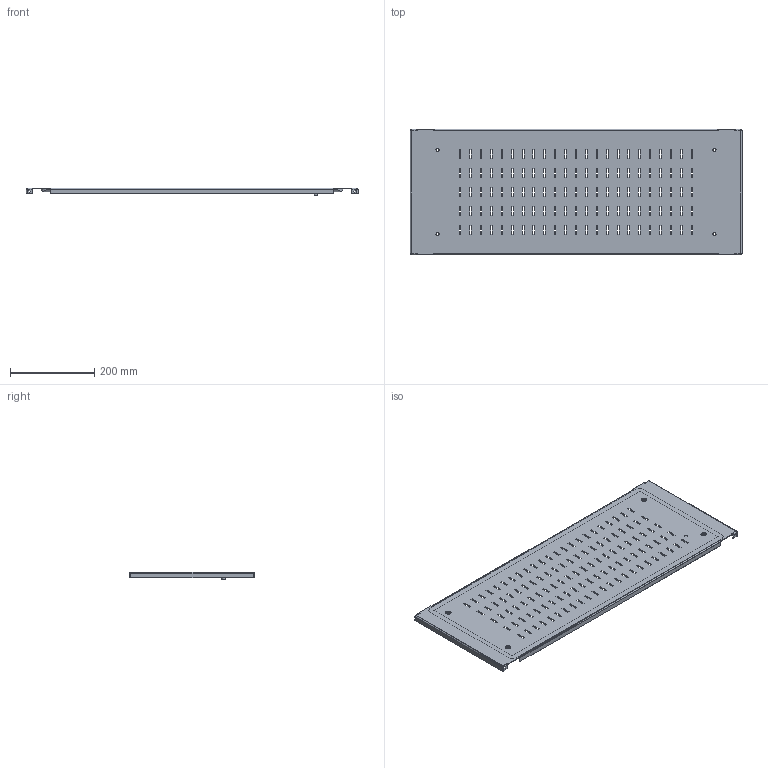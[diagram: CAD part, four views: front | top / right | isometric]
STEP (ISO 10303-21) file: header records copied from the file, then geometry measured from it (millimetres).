
FILE_DESCRIPTION(('STEP AP203'), '1');
FILE_NAME('Ïàíåëü ëèöåâàÿ ïåðôîðèðîâàííàÿ 300õ800 ìì OptiBox M 419522 ÊÝÀÇ', '', ('UNSPECIFIED'), ('UNSPECIFIED'), 'C3D Converter', 'C3D Toolkit', '');
FILE_SCHEMA(('CONFIG_CONTROL_DESIGN'));
Length unit declared in the file: millimetre
Bounding box: 786.4 x 297 x 18.9 mm (x, y, z)
Volume: 484060 mm3; surface area: 570734.4 mm2
Topology: 3 solids, 3 shells, 628 faces, 1765 edges, 1150 vertices
Faces by surface type: plane 569, cylinder 51, bspline 8
Full cylindrical faces by diameter (mm): 0.75 x1, 1 x1, 5 x2, 7.3 x4, 8 x1, 9.3 x1, 13 x1, 13.5 x4
Entity records: 21380 total; most frequent: CARTESIAN_POINT 4765, ORIENTED_EDGE 3500, DIRECTION 3026, EDGE_CURVE 1750, LINE 1644, VECTOR 1644, VERTEX_POINT 1150, EDGE_LOOP 894
